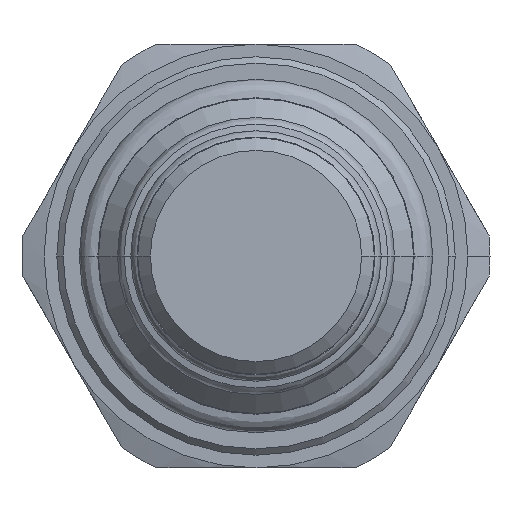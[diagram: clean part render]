
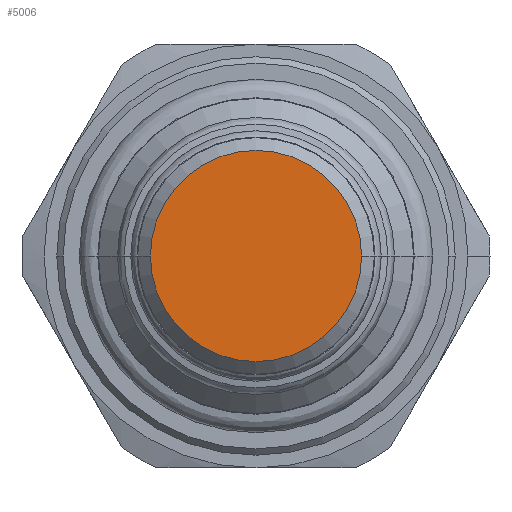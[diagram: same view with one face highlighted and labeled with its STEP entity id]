
A CAD part, front view. The second image highlights one B-rep face of the part: STEP entity #5006.
In plain terms, the highlighted planar face has unit normal (0, -1, 0).
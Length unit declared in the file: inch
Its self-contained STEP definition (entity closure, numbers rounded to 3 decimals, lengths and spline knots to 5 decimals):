
#1858=CARTESIAN_POINT('',(0.,-1.599,0.));
#1859=DIRECTION('',(0.,1.,0.));
#1860=DIRECTION('',(-1.,0.,0.));
#1861=AXIS2_PLACEMENT_3D('',#1858,#1859,#1860);
#1876=CARTESIAN_POINT('',(0.,-1.599,0.));
#1877=DIRECTION('',(0.,1.,0.));
#1878=DIRECTION('',(1.,0.,0.));
#1879=AXIS2_PLACEMENT_3D('',#1876,#1877,#1878);
#2459=CARTESIAN_POINT('',(0.249,-1.599,0.));
#2460=CARTESIAN_POINT('',(-0.249,-1.599,0.));
#2461=VERTEX_POINT('',#2459);
#2462=VERTEX_POINT('',#2460);
#4996=CARTESIAN_POINT('',(0.,-1.599,0.));
#4997=DIRECTION('',(0.,-1.,0.));
#4998=DIRECTION('',(0.,0.,-1.));
#4999=AXIS2_PLACEMENT_3D('',#4996,#4997,#4998);
#5000=PLANE('',#4999);
#5002=ORIENTED_EDGE('',*,*,#5001,.T.);
#5003=ORIENTED_EDGE('',*,*,#4986,.T.);
#5004=EDGE_LOOP('',(#5002,#5003));
#5005=FACE_OUTER_BOUND('',#5004,.F.);
#5006=ADVANCED_FACE('',(#5005),#5000,.T.);
#1862=CIRCLE('',#1861,0.249);
#1880=CIRCLE('',#1879,0.249);
#4986=EDGE_CURVE('',#2462,#2461,#1862,.T.);
#5001=EDGE_CURVE('',#2461,#2462,#1880,.T.);
